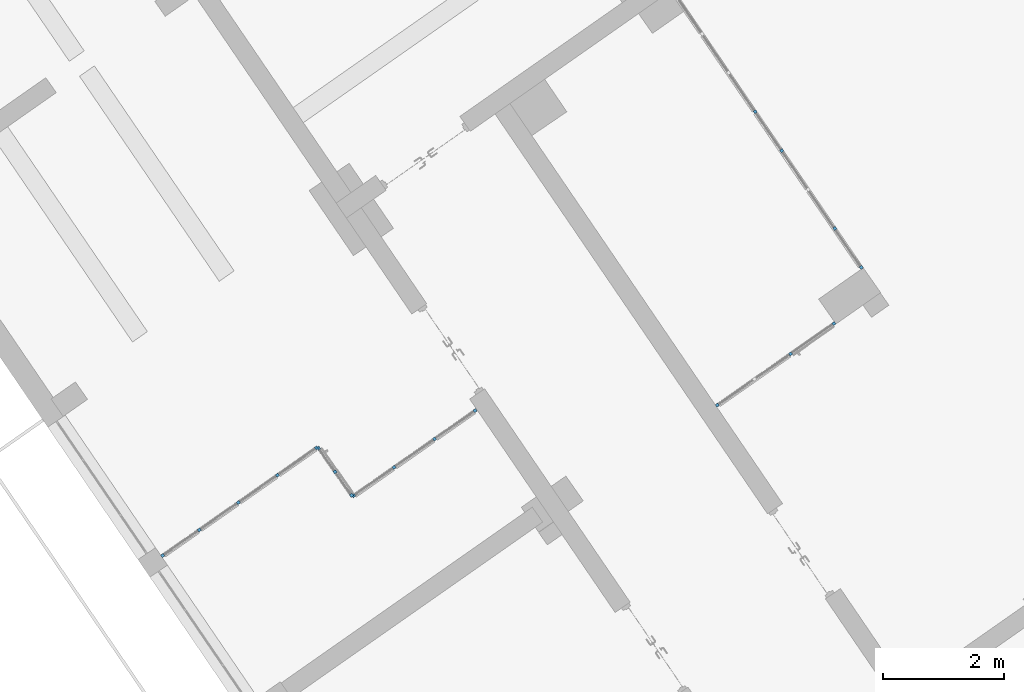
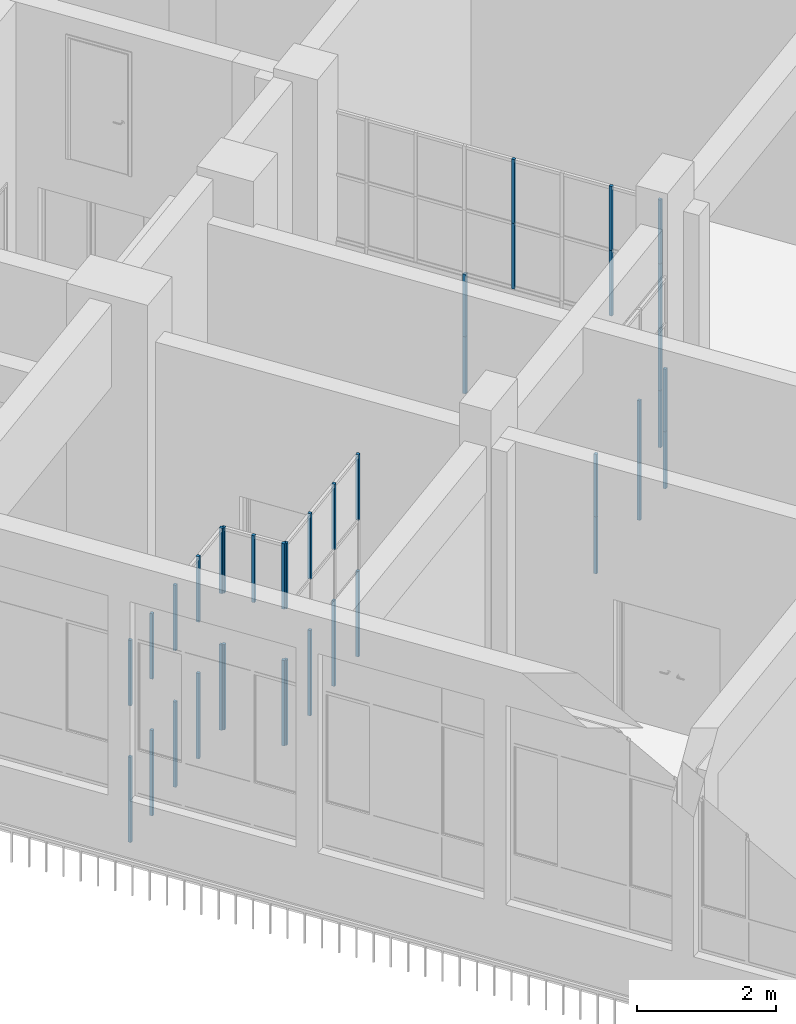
# One storey, part 27 of 157: 39 members, 5 elements without a shape of their own.
"""IFC2X3 building model written with IfcOpenShell, lengths in millimetres."""

from ifc_helpers import new_model, entity, si_unit, converted_unit, derived_unit, direction, frame, origin, origin_2d_with_axis, place, context, subcontext, project, spatial, rectangle, extrude, source, transform, mapped, material, type_object, type_shapes, element, aggregate, save


model = new_model("IFC2X3")

# Units and contexts
model_context = context("Model", 3, precision=0.01, world=origin(), true_north=direction((6.123031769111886e-17, 1.0)))
body_context = subcontext(model_context, "Body", "Model", "MODEL_VIEW")
ifc_project = project(units=[si_unit("LENGTHUNIT", "METRE", prefix="MILLI"), si_unit("AREAUNIT", "SQUARE_METRE"), si_unit("VOLUMEUNIT", "CUBIC_METRE"), converted_unit("PLANEANGLEUNIT", "DEGREE", entity("IfcRatioMeasure", 0.017453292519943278), si_unit("PLANEANGLEUNIT", "RADIAN"), dimensions=[0, 0, 0, 0, 0, 0, 0]), si_unit("MASSUNIT", "GRAM", prefix="KILO"), derived_unit("MASSDENSITYUNIT", [(si_unit("MASSUNIT", "GRAM", prefix="KILO"), 1), (si_unit("LENGTHUNIT", "METRE"), -3)]), derived_unit("MOMENTOFINERTIAUNIT", [(si_unit("LENGTHUNIT", "METRE"), 4)]), si_unit("TIMEUNIT", "SECOND"), si_unit("FREQUENCYUNIT", "HERTZ"), si_unit("THERMODYNAMICTEMPERATUREUNIT", "DEGREE_CELSIUS"), derived_unit("THERMALTRANSMITTANCEUNIT", [(si_unit("MASSUNIT", "GRAM", prefix="KILO"), 1), (si_unit("THERMODYNAMICTEMPERATUREUNIT", "KELVIN"), -1), (si_unit("TIMEUNIT", "SECOND"), -3)]), derived_unit("THERMALCONDUCTANCEUNIT", [(si_unit("MASSUNIT", "GRAM", prefix="KILO"), 1), (si_unit("LENGTHUNIT", "METRE"), 1), (si_unit("THERMODYNAMICTEMPERATUREUNIT", "KELVIN"), -1), (si_unit("TIMEUNIT", "SECOND"), -3)]), derived_unit("VOLUMETRICFLOWRATEUNIT", [(si_unit("LENGTHUNIT", "METRE"), 3), (si_unit("TIMEUNIT", "SECOND"), -1)]), derived_unit("MASSFLOWRATEUNIT", [(si_unit("MASSUNIT", "GRAM", prefix="KILO"), 1), (si_unit("TIMEUNIT", "SECOND"), -1)]), derived_unit("ROTATIONALFREQUENCYUNIT", [(si_unit("TIMEUNIT", "SECOND"), -1)]), si_unit("ELECTRICCURRENTUNIT", "AMPERE"), si_unit("ELECTRICVOLTAGEUNIT", "VOLT"), si_unit("POWERUNIT", "WATT"), converted_unit("FORCEUNIT", "KIP", entity("IfcRatioMeasure", 2.088543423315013e-05), si_unit("FORCEUNIT", "NEWTON"), dimensions=[1, 1, -2, 0, 0, 0, 0]), si_unit("ILLUMINANCEUNIT", "LUX"), si_unit("LUMINOUSFLUXUNIT", "LUMEN"), si_unit("LUMINOUSINTENSITYUNIT", "CANDELA"), derived_unit("USERDEFINED", [(si_unit("MASSUNIT", "GRAM", prefix="KILO"), -1), (si_unit("LENGTHUNIT", "METRE"), -2), (si_unit("TIMEUNIT", "SECOND"), 3), (si_unit("LUMINOUSFLUXUNIT", "LUMEN"), 1)]), derived_unit("USERDEFINED", [(si_unit("MASSUNIT", "GRAM", prefix="KILO"), 1), (si_unit("LENGTHUNIT", "METRE"), 3), (si_unit("TIMEUNIT", "SECOND"), -3), (si_unit("ELECTRICCURRENTUNIT", "AMPERE"), -2)]), derived_unit("USERDEFINED", [(si_unit("LENGTHUNIT", "METRE"), 2), (si_unit("TIMEUNIT", "SECOND"), -2)]), derived_unit("SOUNDPOWERUNIT", [(si_unit("MASSUNIT", "GRAM", prefix="KILO"), 1), (si_unit("LENGTHUNIT", "METRE"), 2), (si_unit("TIMEUNIT", "SECOND"), -3)]), derived_unit("SOUNDPRESSUREUNIT", [(si_unit("MASSUNIT", "GRAM", prefix="KILO"), 1), (si_unit("LENGTHUNIT", "METRE"), -1), (si_unit("TIMEUNIT", "SECOND"), -2)]), derived_unit("LINEARVELOCITYUNIT", [(si_unit("LENGTHUNIT", "METRE"), 1), (si_unit("TIMEUNIT", "SECOND"), -1)]), si_unit("PRESSUREUNIT", "PASCAL"), derived_unit("USERDEFINED", [(si_unit("LENGTHUNIT", "METRE"), -2), (si_unit("MASSUNIT", "GRAM", prefix="KILO"), 1), (si_unit("TIMEUNIT", "SECOND"), -2)]), derived_unit("LINEARFORCEUNIT", [(si_unit("MASSUNIT", "GRAM", prefix="KILO"), 1), (si_unit("LENGTHUNIT", "METRE"), 1), (si_unit("TIMEUNIT", "SECOND"), -2), (si_unit("LENGTHUNIT", "METRE"), -1)]), derived_unit("PLANARFORCEUNIT", [(si_unit("MASSUNIT", "GRAM", prefix="KILO"), 1), (si_unit("LENGTHUNIT", "METRE"), 1), (si_unit("TIMEUNIT", "SECOND"), -2), (si_unit("LENGTHUNIT", "METRE"), -2)]), derived_unit("SPECIFICHEATCAPACITYUNIT", [(si_unit("LENGTHUNIT", "METRE"), 2), (si_unit("TIMEUNIT", "SECOND"), -2), (si_unit("THERMODYNAMICTEMPERATUREUNIT", "KELVIN"), -1)]), derived_unit("VAPORPERMEABILITYUNIT", [(si_unit("TIMEUNIT", "SECOND"), 1), (si_unit("LENGTHUNIT", "METRE"), -1)]), derived_unit("DYNAMICVISCOSITYUNIT", [(si_unit("MASSUNIT", "GRAM", prefix="KILO"), 1), (si_unit("LENGTHUNIT", "METRE"), -1), (si_unit("TIMEUNIT", "SECOND"), -1)]), derived_unit("THERMALEXPANSIONCOEFFICIENTUNIT", [(si_unit("THERMODYNAMICTEMPERATUREUNIT", "KELVIN"), -1)])], contexts=[model_context])

# Site, building, storey
site_placement = place(None, frame((0.0, 0.0, 0.0), z_axis=(0.0, 0.0, 1.0), x_axis=(0.8191520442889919, 0.5735764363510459, 0.0)))
site = spatial("IfcSite", under=ifc_project, at=site_placement, Name="Default", CompositionType="ELEMENT")
building_placement = place(site_placement, origin())
building = spatial("IfcBuilding", under=site, at=building_placement, CompositionType="ELEMENT")
storey_placement = place(building_placement, origin())
storey = spatial("IfcBuildingStorey", under=building, at=storey_placement, Name="1.EG +0.00", CompositionType="ELEMENT", Elevation=-4.331468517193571e-12)

# Curtain wall, members
curtain_wall_type = type_object("IfcCurtainWallType", Name="Curtain Wall:Curtain_Wall_CJC_Int5", PredefinedType="NOTDEFINED")
curtain_wall_1_placement = place(storey_placement, origin())
curtain_wall_1 = element("IfcCurtainWall", 1, at=curtain_wall_1_placement, inside=storey, type_object=curtain_wall_type, Name="Curtain Wall:Curtain_Wall_CJC_Int5", ObjectType="Curtain Wall:Curtain_Wall_CJC_Int5")
ifc_material = material(Name="Aluminium")
member_type_1 = type_object("IfcMemberType", Name="Rectangular Mullion:5x5", PredefinedType="MULLION", material=ifc_material)
shared_shape_1 = source(origin(), body_context, "Body", "SweptSolid", [
    extrude(rectangle(XDim=50.000000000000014, YDim=50.0, at=origin_2d_with_axis()), frame((-25.0, 0.0, -1000.0), z_axis=(0.0, 0.0, 1.0), x_axis=(0.0, -1.0, 0.0)), (0.0, 0.0, 1.0), 1000.0000000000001),
])
type_shapes(member_type_1, [shared_shape_1])
member_1_placement = place(curtain_wall_1_placement, frame((-210833.79642910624, 157771.3589143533, 1000.0)))
member_1 = element("IfcMember", 2, at=member_1_placement, type_object=member_type_1, material=ifc_material, Name="Rectangular Mullion:5x5", ObjectType="Rectangular Mullion:5x5", context=body_context, shape_type="MappedRepresentation", body=[
    mapped(shared_shape_1, transform((0.0, 0.0, 0.0), scale=1.0)),
])
member_type_2 = type_object("IfcMemberType", Name="Rectangular Mullion:5x5", PredefinedType="MULLION", material=ifc_material)
shared_shape_2 = source(origin(), body_context, "Body", "SweptSolid", [
    extrude(rectangle(XDim=50.000000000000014, YDim=50.0, at=origin_2d_with_axis()), frame((-25.0, 0.0, -1100.0), z_axis=(0.0, 0.0, 1.0), x_axis=(0.0, -1.0, 0.0)), (0.0, 0.0, 1.0), 1100.0),
])
type_shapes(member_type_2, [shared_shape_2])
member_2_placement = place(curtain_wall_1_placement, frame((-210833.79642910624, 157771.3589143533, 2100.0)))
member_2 = element("IfcMember", 3, at=member_2_placement, type_object=member_type_2, material=ifc_material, Name="Rectangular Mullion:5x5", ObjectType="Rectangular Mullion:5x5", context=body_context, shape_type="MappedRepresentation", body=[
    mapped(shared_shape_2, transform((0.0, 0.0, 0.0), scale=1.0)),
])
member_type_3 = type_object("IfcMemberType", Name="Rectangular Mullion:5x5", PredefinedType="MULLION", material=ifc_material)
shared_shape_3 = source(origin(), body_context, "Body", "SweptSolid", [
    extrude(rectangle(XDim=49.99999999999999, YDim=50.0, at=origin_2d_with_axis()), frame((-25.0, 0.0, -1000.0), z_axis=(0.0, 0.0, 1.0), x_axis=(0.0, -1.0, 0.0)), (0.0, 0.0, 1.0), 999.9999999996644),
])
type_shapes(member_type_3, [shared_shape_3])
member_3_placement = place(curtain_wall_1_placement, frame((-213236.90391156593, 157771.3589143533, 0.0), z_axis=(0.0, 0.0, -1.0), x_axis=(-1.0, 0.0, 0.0)))
member_3 = element("IfcMember", 4, at=member_3_placement, type_object=member_type_3, material=ifc_material, Name="Rectangular Mullion:5x5", ObjectType="Rectangular Mullion:5x5", context=body_context, shape_type="MappedRepresentation", body=[
    mapped(shared_shape_3, transform((0.0, 0.0, 0.0), scale=1.0)),
])

# Curtain wall, member
curtain_wall_2_placement = place(storey_placement, origin())
curtain_wall_2 = element("IfcCurtainWall", 5, at=curtain_wall_2_placement, inside=storey, type_object=curtain_wall_type, Name="Curtain Wall:Curtain_Wall_CJC_Int5", ObjectType="Curtain Wall:Curtain_Wall_CJC_Int5")
member_type_4 = type_object("IfcMemberType", Name="Rectangular Mullion:5x5", PredefinedType="MULLION", material=ifc_material)
shared_shape_4 = source(origin(), body_context, "Body", "SweptSolid", [
    extrude(rectangle(XDim=50.000000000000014, YDim=50.0, at=origin_2d_with_axis()), frame((-25.0, 0.0, -1125.0), z_axis=(0.0, 0.0, 1.0), x_axis=(0.0, -1.0, 0.0)), (0.0, 0.0, 1.0), 1125.0000000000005),
])
type_shapes(member_type_4, [shared_shape_4])
member_4_placement = place(curtain_wall_2_placement, frame((-209955.54977400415, 158246.35891435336, 4350.0), z_axis=(0.0, 0.0, 1.0), x_axis=(-0.012616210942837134, -0.9999204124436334, 0.0)))
member_4 = element("IfcMember", 6, at=member_4_placement, type_object=member_type_4, material=ifc_material, Name="Rectangular Mullion:5x5", ObjectType="Rectangular Mullion:5x5", context=body_context, shape_type="MappedRepresentation", body=[
    mapped(shared_shape_4, transform((0.0, 0.0, 0.0), scale=1.0)),
])

# Member
member_type_5 = type_object("IfcMemberType", Name="Rectangular Mullion:5x5", PredefinedType="MULLION", material=ifc_material)
shared_shape_5 = source(origin(), body_context, "Body", "SweptSolid", [
    extrude(rectangle(XDim=50.0, YDim=50.0, at=origin_2d_with_axis()), frame((-25.0, 0.0, -1100.0), z_axis=(0.0, 0.0, 1.0), x_axis=(0.0, -1.0, 0.0)), (0.0, 0.0, 1.0), 1100.0),
])
type_shapes(member_type_5, [shared_shape_5])
member_5_placement = place(curtain_wall_1_placement, frame((-213236.90391156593, 157771.3589143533, 1000.0), z_axis=(0.0, 0.0, -1.0), x_axis=(-1.0, 0.0, 0.0)))
member_5 = element("IfcMember", 7, at=member_5_placement, type_object=member_type_5, material=ifc_material, Name="Rectangular Mullion:5x5", ObjectType="Rectangular Mullion:5x5", context=body_context, shape_type="MappedRepresentation", body=[
    mapped(shared_shape_5, transform((0.0, 0.0, 0.0), scale=1.0)),
])

member_type_6 = type_object("IfcMemberType", Name="Rectangular Mullion:5x5", PredefinedType="MULLION", material=ifc_material)
shared_shape_6 = source(origin(), body_context, "Body", "SweptSolid", [
    extrude(rectangle(XDim=50.0, YDim=50.0, at=origin_2d_with_axis()), frame((-25.0, 0.0, -1000.0), z_axis=(0.0, 0.0, 1.0), x_axis=(0.0, -1.0, 0.0)), (0.0, 0.0, 1.0), 999.9999999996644),
])
type_shapes(member_type_6, [shared_shape_6])
member_6_placement = place(curtain_wall_2_placement, frame((-209955.54977400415, 158246.35891435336, 1000.0), z_axis=(0.0, 0.0, 1.0), x_axis=(-0.012616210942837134, -0.9999204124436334, 0.0)))
member_6 = element("IfcMember", 8, at=member_6_placement, type_object=member_type_6, material=ifc_material, Name="Rectangular Mullion:5x5", ObjectType="Rectangular Mullion:5x5", context=body_context, shape_type="MappedRepresentation", body=[
    mapped(shared_shape_6, transform((0.0, 0.0, 0.0), scale=1.0)),
])

member_type_7 = type_object("IfcMemberType", Name="Rectangular Mullion:5x5", PredefinedType="MULLION", material=ifc_material)
shared_shape_7 = source(origin(), body_context, "Body", "SweptSolid", [
    extrude(rectangle(XDim=50.000000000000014, YDim=50.0, at=origin_2d_with_axis()), frame((-25.0, 0.0, -1100.0), z_axis=(0.0, 0.0, 1.0), x_axis=(0.0, -1.0, 0.0)), (0.0, 0.0, 1.0), 1099.9999999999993),
])
type_shapes(member_type_7, [shared_shape_7])
member_7_placement = place(curtain_wall_2_placement, frame((-209955.54977400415, 158246.35891435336, 2100.0), z_axis=(0.0, 0.0, 1.0), x_axis=(-0.012616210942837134, -0.9999204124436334, 0.0)))
member_7 = element("IfcMember", 9, at=member_7_placement, type_object=member_type_7, material=ifc_material, Name="Rectangular Mullion:5x5", ObjectType="Rectangular Mullion:5x5", context=body_context, shape_type="MappedRepresentation", body=[
    mapped(shared_shape_7, transform((0.0, 0.0, 0.0), scale=1.0)),
])

member_type_8 = type_object("IfcMemberType", Name="Rectangular Mullion:5x5", PredefinedType="MULLION", material=ifc_material)
shared_shape_8 = source(origin(), body_context, "Body", "SweptSolid", [
    extrude(rectangle(XDim=50.000000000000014, YDim=50.0, at=origin_2d_with_axis()), frame((-25.0, 0.0, -1125.0), z_axis=(0.0, 0.0, 1.0), x_axis=(0.0, -1.0, 0.0)), (0.0, 0.0, 1.0), 1124.9999999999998),
])
type_shapes(member_type_8, [shared_shape_8])
member_8_placement = place(curtain_wall_2_placement, frame((-209955.54977400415, 158246.35891435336, 3225.0), z_axis=(0.0, 0.0, 1.0), x_axis=(-0.012616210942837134, -0.9999204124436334, 0.0)))
member_8 = element("IfcMember", 10, at=member_8_placement, type_object=member_type_8, material=ifc_material, Name="Rectangular Mullion:5x5", ObjectType="Rectangular Mullion:5x5", context=body_context, shape_type="MappedRepresentation", body=[
    mapped(shared_shape_8, transform((0.0, 0.0, 0.0), scale=1.0)),
])

member_type_9 = type_object("IfcMemberType", Name="Rectangular Mullion:5x5", PredefinedType="MULLION", material=ifc_material)
shared_shape_9 = source(origin(), body_context, "Body", "SweptSolid", [
    extrude(rectangle(XDim=50.0, YDim=50.0, at=origin_2d_with_axis()), frame((0.0, 0.0, -1000.0), z_axis=(0.0, 0.0, 1.0), x_axis=(0.0, -1.0, 0.0)), (0.0, 0.0, 1.0), 1000.0000000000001),
])
type_shapes(member_type_9, [shared_shape_9])
member_9_placement = place(curtain_wall_2_placement, frame((-209915.94072725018, 161385.6449128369, 0.0), z_axis=(0.0, 0.0, -1.0), x_axis=(0.012616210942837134, 0.9999204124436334, 0.0)))
member_9 = element("IfcMember", 11, at=member_9_placement, type_object=member_type_9, material=ifc_material, Name="Rectangular Mullion:5x5", ObjectType="Rectangular Mullion:5x5", context=body_context, shape_type="MappedRepresentation", body=[
    mapped(shared_shape_9, transform((0.0, 0.0, 0.0), scale=1.0)),
])

member_10_placement = place(curtain_wall_1_placement, frame((-211733.79642910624, 157771.3589143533, 0.0), z_axis=(0.0, 0.0, -1.0), x_axis=(-1.0, 0.0, 0.0)))
member_10 = element("IfcMember", 12, at=member_10_placement, type_object=member_type_9, material=ifc_material, Name="Rectangular Mullion:5x5", ObjectType="Rectangular Mullion:5x5", context=body_context, shape_type="MappedRepresentation", body=[
    mapped(shared_shape_9, transform((0.0, 0.0, 0.0), scale=1.0)),
])

member_type_10 = type_object("IfcMemberType", Name="Rectangular Mullion:5x5", PredefinedType="MULLION", material=ifc_material)
shared_shape_10 = source(origin(), body_context, "Body", "SweptSolid", [
    extrude(rectangle(XDim=50.0, YDim=50.0, at=origin_2d_with_axis()), frame((0.0, 0.0, -1100.0), z_axis=(0.0, 0.0, 1.0), x_axis=(0.0, -1.0, 0.0)), (0.0, 0.0, 1.0), 1100.0),
])
type_shapes(member_type_10, [shared_shape_10])
member_11_placement = place(curtain_wall_2_placement, frame((-209915.94072725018, 161385.6449128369, 1000.0), z_axis=(0.0, 0.0, -1.0), x_axis=(0.012616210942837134, 0.9999204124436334, 0.0)))
member_11 = element("IfcMember", 13, at=member_11_placement, type_object=member_type_10, material=ifc_material, Name="Rectangular Mullion:5x5", ObjectType="Rectangular Mullion:5x5", context=body_context, shape_type="MappedRepresentation", body=[
    mapped(shared_shape_10, transform((0.0, 0.0, 0.0), scale=1.0)),
])

member_12_placement = place(curtain_wall_1_placement, frame((-211733.79642910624, 157771.3589143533, 1000.0), z_axis=(0.0, 0.0, -1.0), x_axis=(-1.0, 0.0, 0.0)))
member_12 = element("IfcMember", 14, at=member_12_placement, type_object=member_type_10, material=ifc_material, Name="Rectangular Mullion:5x5", ObjectType="Rectangular Mullion:5x5", context=body_context, shape_type="MappedRepresentation", body=[
    mapped(shared_shape_10, transform((0.0, 0.0, 0.0), scale=1.0)),
])

aggregate(curtain_wall_1, [member_3, member_5, member_1, member_2, member_10, member_12])

member_type_11 = type_object("IfcMemberType", Name="Rectangular Mullion:5x5", PredefinedType="MULLION", material=ifc_material)
shared_shape_11 = source(origin(), body_context, "Body", "SweptSolid", [
    extrude(rectangle(XDim=50.0, YDim=50.0, at=origin_2d_with_axis()), frame((0.0, 0.0, -1150.0), z_axis=(0.0, 0.0, 1.0), x_axis=(0.0, -1.0, 0.0)), (0.0, 0.0, 1.0), 1149.9999999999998),
])
type_shapes(member_type_11, [shared_shape_11])
member_13_placement = place(curtain_wall_2_placement, frame((-209945.41095835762, 159049.92892193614, 2075.0), z_axis=(0.0, 0.0, -1.0), x_axis=(0.012616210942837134, 0.9999204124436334, 0.0)))
member_13 = element("IfcMember", 15, at=member_13_placement, type_object=member_type_11, material=ifc_material, Name="Rectangular Mullion:5x5", ObjectType="Rectangular Mullion:5x5", context=body_context, shape_type="MappedRepresentation", body=[
    mapped(shared_shape_11, transform((0.0, 0.0, 0.0), scale=1.0)),
])

member_14_placement = place(curtain_wall_2_placement, frame((-209925.7641376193, 160607.07291586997, 2075.0), z_axis=(0.0, 0.0, -1.0), x_axis=(0.012616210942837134, 0.9999204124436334, 0.0)))
member_14 = element("IfcMember", 16, at=member_14_placement, type_object=member_type_11, material=ifc_material, Name="Rectangular Mullion:5x5", ObjectType="Rectangular Mullion:5x5", context=body_context, shape_type="MappedRepresentation", body=[
    mapped(shared_shape_11, transform((0.0, 0.0, 0.0), scale=1.0)),
])

member_type_12 = type_object("IfcMemberType", Name="Rectangular Mullion:5x5", PredefinedType="MULLION", material=ifc_material)
shared_shape_12 = source(origin(), body_context, "Body", "SweptSolid", [
    extrude(rectangle(XDim=50.0, YDim=50.0, at=origin_2d_with_axis()), frame((0.0, 0.0, -1125.0), z_axis=(0.0, 0.0, 1.0), x_axis=(0.0, -1.0, 0.0)), (0.0, 0.0, 1.0), 1124.9999999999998),
])
type_shapes(member_type_12, [shared_shape_12])
member_15_placement = place(curtain_wall_2_placement, frame((-209945.41095835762, 159049.92892193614, 3225.0), z_axis=(0.0, 0.0, -1.0), x_axis=(0.012616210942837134, 0.9999204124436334, 0.0)))
member_15 = element("IfcMember", 17, at=member_15_placement, type_object=member_type_12, material=ifc_material, Name="Rectangular Mullion:5x5", ObjectType="Rectangular Mullion:5x5", context=body_context, shape_type="MappedRepresentation", body=[
    mapped(shared_shape_12, transform((0.0, 0.0, 0.0), scale=1.0)),
])

member_16_placement = place(curtain_wall_2_placement, frame((-209925.7641376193, 160607.07291586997, 3225.0), z_axis=(0.0, 0.0, -1.0), x_axis=(0.012616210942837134, 0.9999204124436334, 0.0)))
member_16 = element("IfcMember", 18, at=member_16_placement, type_object=member_type_12, material=ifc_material, Name="Rectangular Mullion:5x5", ObjectType="Rectangular Mullion:5x5", context=body_context, shape_type="MappedRepresentation", body=[
    mapped(shared_shape_12, transform((0.0, 0.0, 0.0), scale=1.0)),
])

aggregate(curtain_wall_2, [member_4, member_6, member_7, member_8, member_9, member_11, member_13, member_14, member_15, member_16])

# Curtain wall, member
curtain_wall_3_placement = place(storey_placement, origin())
curtain_wall_3 = element("IfcCurtainWall", 19, at=curtain_wall_3_placement, inside=storey, type_object=curtain_wall_type, Name="Curtain Wall:Curtain_Wall_CJC_Int5", ObjectType="Curtain Wall:Curtain_Wall_CJC_Int5")
member_type_13 = type_object("IfcMemberType", Name="Rectangular Mullion:5x5", PredefinedType="MULLION", material=ifc_material)
shared_shape_13 = source(origin(), body_context, "Body", "SweptSolid", [
    extrude(rectangle(XDim=50.000000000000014, YDim=50.0, at=origin_2d_with_axis()), frame((-25.0, 0.0, -1500.0), z_axis=(0.0, 0.0, 1.0), x_axis=(0.0, -1.0, 0.0)), (0.0, 0.0, 1.0), 1500.0),
])
type_shapes(member_type_13, [shared_shape_13])
member_17_placement = place(curtain_wall_3_placement, frame((-219018.91835994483, 159994.0786543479, 0.0), z_axis=(0.0, 0.0, -1.0), x_axis=(-1.0, 0.0, 0.0)))
member_17 = element("IfcMember", 20, at=member_17_placement, type_object=member_type_13, material=ifc_material, Name="Rectangular Mullion:5x5", ObjectType="Rectangular Mullion:5x5", context=body_context, shape_type="MappedRepresentation", body=[
    mapped(shared_shape_13, transform((0.0, 0.0, 0.0), scale=1.0)),
])

curtain_wall_4_placement = place(storey_placement, origin())
curtain_wall_4 = element("IfcCurtainWall", 21, at=curtain_wall_4_placement, inside=storey, type_object=curtain_wall_type, Name="Curtain Wall:Curtain_Wall_CJC_Int5", ObjectType="Curtain Wall:Curtain_Wall_CJC_Int5")
member_18_placement = place(curtain_wall_4_placement, frame((-222171.90199927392, 160994.07865434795, 0.0), z_axis=(0.0, 0.0, -1.0), x_axis=(-1.0, 0.0, 0.0)))
member_18 = element("IfcMember", 22, at=member_18_placement, type_object=member_type_13, material=ifc_material, Name="Rectangular Mullion:5x5", ObjectType="Rectangular Mullion:5x5", context=body_context, shape_type="MappedRepresentation", body=[
    mapped(shared_shape_13, transform((0.0, 0.0, 0.0), scale=1.0)),
])

# Member
member_type_14 = type_object("IfcMemberType", Name="Rectangular Mullion:5x5", PredefinedType="MULLION", material=ifc_material)
shared_shape_14 = source(origin(), body_context, "Body", "SweptSolid", [
    extrude(rectangle(XDim=50.000000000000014, YDim=50.0, at=origin_2d_with_axis()), frame((-25.0, 0.0, -1150.0), z_axis=(0.0, 0.0, 1.0), x_axis=(0.0, -1.0, 0.0)), (0.0, 0.0, 1.0), 1150.0),
])
type_shapes(member_type_14, [shared_shape_14])
member_19_placement = place(curtain_wall_3_placement, frame((-216518.91835994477, 159994.0786543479, 3550.0)))
member_19 = element("IfcMember", 23, at=member_19_placement, type_object=member_type_14, material=ifc_material, Name="Rectangular Mullion:5x5", ObjectType="Rectangular Mullion:5x5", context=body_context, shape_type="MappedRepresentation", body=[
    mapped(shared_shape_14, transform((0.0, 0.0, 0.0), scale=1.0)),
])

# Curtain wall, member
curtain_wall_5_placement = place(storey_placement, origin())
curtain_wall_5 = element("IfcCurtainWall", 24, at=curtain_wall_5_placement, inside=storey, type_object=curtain_wall_type, Name="Curtain Wall:Curtain_Wall_CJC_Int5", ObjectType="Curtain Wall:Curtain_Wall_CJC_Int5")
member_20_placement = place(curtain_wall_5_placement, frame((-219018.91835994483, 159994.0786543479, 3550.0), z_axis=(0.0, 0.0, 1.0), x_axis=(0.0, -1.0, 0.0)))
member_20 = element("IfcMember", 25, at=member_20_placement, type_object=member_type_14, material=ifc_material, Name="Rectangular Mullion:5x5", ObjectType="Rectangular Mullion:5x5", context=body_context, shape_type="MappedRepresentation", body=[
    mapped(shared_shape_14, transform((0.0, 0.0, 0.0), scale=1.0)),
])

# Member
member_21_placement = place(curtain_wall_4_placement, frame((-219018.91835994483, 160994.07865434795, 3550.0)))
member_21 = element("IfcMember", 26, at=member_21_placement, type_object=member_type_14, material=ifc_material, Name="Rectangular Mullion:5x5", ObjectType="Rectangular Mullion:5x5", context=body_context, shape_type="MappedRepresentation", body=[
    mapped(shared_shape_14, transform((0.0, 0.0, 0.0), scale=1.0)),
])

member_type_15 = type_object("IfcMemberType", Name="Rectangular Mullion:5x5", PredefinedType="MULLION", material=ifc_material)
shared_shape_15 = source(origin(), body_context, "Body", "SweptSolid", [
    extrude(rectangle(XDim=50.000000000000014, YDim=50.0, at=origin_2d_with_axis()), frame((-25.0, 0.0, -1500.0), z_axis=(0.0, 0.0, 1.0), x_axis=(0.0, -1.0, 0.0)), (0.0, 0.0, 1.0), 1500.0),
])
type_shapes(member_type_15, [shared_shape_15])
member_22_placement = place(curtain_wall_3_placement, frame((-216518.91835994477, 159994.0786543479, 1500.0)))
member_22 = element("IfcMember", 27, at=member_22_placement, type_object=member_type_15, material=ifc_material, Name="Rectangular Mullion:5x5", ObjectType="Rectangular Mullion:5x5", context=body_context, shape_type="MappedRepresentation", body=[
    mapped(shared_shape_15, transform((0.0, 0.0, 0.0), scale=1.0)),
])

member_23_placement = place(curtain_wall_4_placement, frame((-219018.91835994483, 160994.07865434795, 1500.0)))
member_23 = element("IfcMember", 28, at=member_23_placement, type_object=member_type_15, material=ifc_material, Name="Rectangular Mullion:5x5", ObjectType="Rectangular Mullion:5x5", context=body_context, shape_type="MappedRepresentation", body=[
    mapped(shared_shape_15, transform((0.0, 0.0, 0.0), scale=1.0)),
])

member_type_16 = type_object("IfcMemberType", Name="Rectangular Mullion:5x5", PredefinedType="MULLION", material=ifc_material)
shared_shape_16 = source(origin(), body_context, "Body", "SweptSolid", [
    extrude(rectangle(XDim=50.0, YDim=50.0, at=origin_2d_with_axis()), frame((0.0, 0.0, -1500.0), z_axis=(0.0, 0.0, 1.0), x_axis=(0.0, -1.0, 0.0)), (0.0, 0.0, 1.0), 1500.0),
])
type_shapes(member_type_16, [shared_shape_16])
member_24_placement = place(curtain_wall_3_placement, frame((-217360.58502671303, 159994.0786543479, 0.0), z_axis=(0.0, 0.0, -1.0), x_axis=(-1.0, 0.0, 0.0)))
member_24 = element("IfcMember", 29, at=member_24_placement, type_object=member_type_16, material=ifc_material, Name="Rectangular Mullion:5x5", ObjectType="Rectangular Mullion:5x5", context=body_context, shape_type="MappedRepresentation", body=[
    mapped(shared_shape_16, transform((0.0, 0.0, 0.0), scale=1.0)),
])

member_25_placement = place(curtain_wall_3_placement, frame((-218177.25169317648, 159994.0786543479, 0.0), z_axis=(0.0, 0.0, -1.0), x_axis=(-1.0, 0.0, 0.0)))
member_25 = element("IfcMember", 30, at=member_25_placement, type_object=member_type_16, material=ifc_material, Name="Rectangular Mullion:5x5", ObjectType="Rectangular Mullion:5x5", context=body_context, shape_type="MappedRepresentation", body=[
    mapped(shared_shape_16, transform((0.0, 0.0, 0.0), scale=1.0)),
])

member_26_placement = place(curtain_wall_4_placement, frame((-219832.1642699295, 160994.07865434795, 0.0), z_axis=(0.0, 0.0, -1.0), x_axis=(-1.0, 0.0, 0.0)))
member_26 = element("IfcMember", 31, at=member_26_placement, type_object=member_type_16, material=ifc_material, Name="Rectangular Mullion:5x5", ObjectType="Rectangular Mullion:5x5", context=body_context, shape_type="MappedRepresentation", body=[
    mapped(shared_shape_16, transform((0.0, 0.0, 0.0), scale=1.0)),
])

member_27_placement = place(curtain_wall_4_placement, frame((-220620.41017960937, 160994.07865434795, 0.0), z_axis=(0.0, 0.0, -1.0), x_axis=(-1.0, 0.0, 0.0)))
member_27 = element("IfcMember", 32, at=member_27_placement, type_object=member_type_16, material=ifc_material, Name="Rectangular Mullion:5x5", ObjectType="Rectangular Mullion:5x5", context=body_context, shape_type="MappedRepresentation", body=[
    mapped(shared_shape_16, transform((0.0, 0.0, 0.0), scale=1.0)),
])

member_28_placement = place(curtain_wall_4_placement, frame((-221408.65608928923, 160994.07865434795, 0.0), z_axis=(0.0, 0.0, -1.0), x_axis=(-1.0, 0.0, 0.0)))
member_28 = element("IfcMember", 33, at=member_28_placement, type_object=member_type_16, material=ifc_material, Name="Rectangular Mullion:5x5", ObjectType="Rectangular Mullion:5x5", context=body_context, shape_type="MappedRepresentation", body=[
    mapped(shared_shape_16, transform((0.0, 0.0, 0.0), scale=1.0)),
])

member_type_17 = type_object("IfcMemberType", Name="Rectangular Mullion:5x5", PredefinedType="MULLION", material=ifc_material)
shared_shape_17 = source(origin(), body_context, "Body", "SweptSolid", [
    extrude(rectangle(XDim=50.000000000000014, YDim=50.0, at=origin_2d_with_axis()), frame((-25.0, 0.0, -1150.0), z_axis=(0.0, 0.0, 1.0), x_axis=(0.0, -1.0, 0.0)), (0.0, 0.0, 1.0), 1150.0),
])
type_shapes(member_type_17, [shared_shape_17])
member_29_placement = place(curtain_wall_3_placement, frame((-219018.91835994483, 159994.0786543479, 2400.0), z_axis=(0.0, 0.0, -1.0), x_axis=(-1.0, 0.0, 0.0)))
member_29 = element("IfcMember", 34, at=member_29_placement, type_object=member_type_17, material=ifc_material, Name="Rectangular Mullion:5x5", ObjectType="Rectangular Mullion:5x5", context=body_context, shape_type="MappedRepresentation", body=[
    mapped(shared_shape_17, transform((0.0, 0.0, 0.0), scale=1.0)),
])

member_30_placement = place(curtain_wall_5_placement, frame((-219018.91835994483, 160994.07865434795, 2400.0), z_axis=(0.0, 0.0, -1.0), x_axis=(0.0, 1.0, 0.0)))
member_30 = element("IfcMember", 35, at=member_30_placement, type_object=member_type_17, material=ifc_material, Name="Rectangular Mullion:5x5", ObjectType="Rectangular Mullion:5x5", context=body_context, shape_type="MappedRepresentation", body=[
    mapped(shared_shape_17, transform((0.0, 0.0, 0.0), scale=1.0)),
])

member_31_placement = place(curtain_wall_4_placement, frame((-222171.90199927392, 160994.07865434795, 2400.0), z_axis=(0.0, 0.0, -1.0), x_axis=(-1.0, 0.0, 0.0)))
member_31 = element("IfcMember", 36, at=member_31_placement, type_object=member_type_17, material=ifc_material, Name="Rectangular Mullion:5x5", ObjectType="Rectangular Mullion:5x5", context=body_context, shape_type="MappedRepresentation", body=[
    mapped(shared_shape_17, transform((0.0, 0.0, 0.0), scale=1.0)),
])

member_type_18 = type_object("IfcMemberType", Name="Rectangular Mullion:5x5", PredefinedType="MULLION", material=ifc_material)
shared_shape_18 = source(origin(), body_context, "Body", "SweptSolid", [
    extrude(rectangle(XDim=50.0, YDim=50.0, at=origin_2d_with_axis()), frame((0.0, 0.0, -1150.0), z_axis=(0.0, 0.0, 1.0), x_axis=(0.0, -1.0, 0.0)), (0.0, 0.0, 1.0), 1150.0),
])
type_shapes(member_type_18, [shared_shape_18])
member_32_placement = place(curtain_wall_3_placement, frame((-217360.58502671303, 159994.0786543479, 2400.0), z_axis=(0.0, 0.0, -1.0), x_axis=(-1.0, 0.0, 0.0)))
member_32 = element("IfcMember", 37, at=member_32_placement, type_object=member_type_18, material=ifc_material, Name="Rectangular Mullion:5x5", ObjectType="Rectangular Mullion:5x5", context=body_context, shape_type="MappedRepresentation", body=[
    mapped(shared_shape_18, transform((0.0, 0.0, 0.0), scale=1.0)),
])

member_33_placement = place(curtain_wall_3_placement, frame((-218177.25169317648, 159994.0786543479, 2400.0), z_axis=(0.0, 0.0, -1.0), x_axis=(-1.0, 0.0, 0.0)))
member_33 = element("IfcMember", 38, at=member_33_placement, type_object=member_type_18, material=ifc_material, Name="Rectangular Mullion:5x5", ObjectType="Rectangular Mullion:5x5", context=body_context, shape_type="MappedRepresentation", body=[
    mapped(shared_shape_18, transform((0.0, 0.0, 0.0), scale=1.0)),
])

aggregate(curtain_wall_3, [member_17, member_19, member_22, member_24, member_25, member_29, member_32, member_33])

member_34_placement = place(curtain_wall_4_placement, frame((-219832.1642699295, 160994.07865434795, 2400.0), z_axis=(0.0, 0.0, -1.0), x_axis=(-1.0, 0.0, 0.0)))
member_34 = element("IfcMember", 39, at=member_34_placement, type_object=member_type_18, material=ifc_material, Name="Rectangular Mullion:5x5", ObjectType="Rectangular Mullion:5x5", context=body_context, shape_type="MappedRepresentation", body=[
    mapped(shared_shape_18, transform((0.0, 0.0, 0.0), scale=1.0)),
])

member_35_placement = place(curtain_wall_4_placement, frame((-220620.41017960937, 160994.07865434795, 2400.0), z_axis=(0.0, 0.0, -1.0), x_axis=(-1.0, 0.0, 0.0)))
member_35 = element("IfcMember", 40, at=member_35_placement, type_object=member_type_18, material=ifc_material, Name="Rectangular Mullion:5x5", ObjectType="Rectangular Mullion:5x5", context=body_context, shape_type="MappedRepresentation", body=[
    mapped(shared_shape_18, transform((0.0, 0.0, 0.0), scale=1.0)),
])

member_36_placement = place(curtain_wall_4_placement, frame((-221408.65608928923, 160994.07865434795, 2400.0), z_axis=(0.0, 0.0, -1.0), x_axis=(-1.0, 0.0, 0.0)))
member_36 = element("IfcMember", 41, at=member_36_placement, type_object=member_type_18, material=ifc_material, Name="Rectangular Mullion:5x5", ObjectType="Rectangular Mullion:5x5", context=body_context, shape_type="MappedRepresentation", body=[
    mapped(shared_shape_18, transform((0.0, 0.0, 0.0), scale=1.0)),
])

aggregate(curtain_wall_4, [member_18, member_21, member_23, member_26, member_27, member_28, member_31, member_34, member_35, member_36])

member_type_19 = type_object("IfcMemberType", Name="Rectangular Mullion:5x5", PredefinedType="MULLION", material=ifc_material)
shared_shape_19 = source(origin(), body_context, "Body", "SweptSolid", [
    extrude(rectangle(XDim=50.000000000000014, YDim=50.0, at=origin_2d_with_axis()), frame((-25.0, 0.0, -1500.0), z_axis=(0.0, 0.0, 1.0), x_axis=(0.0, -1.0, 0.0)), (0.0, 0.0, 1.0), 1500.0),
])
type_shapes(member_type_19, [shared_shape_19])
member_37_placement = place(curtain_wall_5_placement, frame((-219018.91835994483, 160994.07865434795, 0.0), z_axis=(0.0, 0.0, -1.0), x_axis=(0.0, 1.0, 0.0)))
member_37 = element("IfcMember", 42, at=member_37_placement, type_object=member_type_19, material=ifc_material, Name="Rectangular Mullion:5x5", ObjectType="Rectangular Mullion:5x5", context=body_context, shape_type="MappedRepresentation", body=[
    mapped(shared_shape_19, transform((0.0, 0.0, 0.0), scale=1.0)),
])

member_type_20 = type_object("IfcMemberType", Name="Rectangular Mullion:5x5", PredefinedType="MULLION", material=ifc_material)
shared_shape_20 = source(origin(), body_context, "Body", "SweptSolid", [
    extrude(rectangle(XDim=50.0, YDim=50.0, at=origin_2d_with_axis()), frame((-25.0, 0.0, -1500.0), z_axis=(0.0, 0.0, 1.0), x_axis=(0.0, -1.0, 0.0)), (0.0, 0.0, 1.0), 1500.0),
])
type_shapes(member_type_20, [shared_shape_20])
member_38_placement = place(curtain_wall_5_placement, frame((-219018.91835994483, 159994.0786543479, 1500.0), z_axis=(0.0, 0.0, 1.0), x_axis=(0.0, -1.0, 0.0)))
member_38 = element("IfcMember", 43, at=member_38_placement, type_object=member_type_20, material=ifc_material, Name="Rectangular Mullion:5x5", ObjectType="Rectangular Mullion:5x5", context=body_context, shape_type="MappedRepresentation", body=[
    mapped(shared_shape_20, transform((0.0, 0.0, 0.0), scale=1.0)),
])

member_type_21 = type_object("IfcMemberType", Name="Rectangular Mullion:5x5", PredefinedType="MULLION", material=ifc_material)
shared_shape_21 = source(origin(), body_context, "Body", "SweptSolid", [
    extrude(rectangle(XDim=50.0, YDim=50.0, at=origin_2d_with_axis()), frame((0.0, 0.0, -1175.0), z_axis=(0.0, 0.0, 1.0), x_axis=(0.0, -1.0, 0.0)), (0.0, 0.0, 1.0), 1175.0),
])
type_shapes(member_type_21, [shared_shape_21])
member_39_placement = place(curtain_wall_5_placement, frame((-219018.91835994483, 160494.0786543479, 2375.0), z_axis=(0.0, 0.0, -1.0), x_axis=(0.0, 1.0, 0.0)))
member_39 = element("IfcMember", 44, at=member_39_placement, type_object=member_type_21, material=ifc_material, Name="Rectangular Mullion:5x5", ObjectType="Rectangular Mullion:5x5", context=body_context, shape_type="MappedRepresentation", body=[
    mapped(shared_shape_21, transform((0.0, 0.0, 0.0), scale=1.0)),
])

aggregate(curtain_wall_5, [member_37, member_20, member_38, member_30, member_39])

save(model, "model.ifc")
